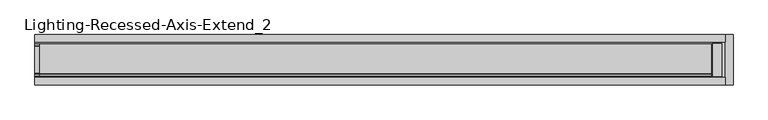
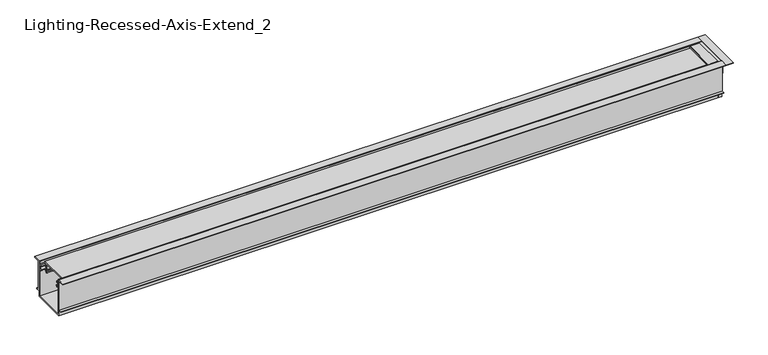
"""IFC4 building model written with IfcOpenShell, lengths in millimetres: light fixture geometry, Lighting-Recessed-Axis-Extend_2 : EX2R-900-80-35-SO-4."""

from ifc_helpers import new_model, si_unit, point, frame, frame_2d, origin, place, context, project, spatial, polyline, circle_curve, trimmed, segment, composite_curve, outline, extrude, faceted_brep, source, transform, mapped, element, save


def lighting_recessed_axis_extend_2_ac76121e(model_context):
    return source(origin(), model_context, "Body", "SolidModel", [
        extrude(outline(polyline([(34.29, -57.023), (38.954552, -57.023), (38.954552, -58.674), (32.004, -58.674), (32.004, 1.651), (45.593, 1.651), (45.593, 0.0), (34.29, 0.0), (34.29, -57.023)])), frame((-618.7567, 0.0, 0.0), z_axis=(1.0, 0.0, 0.0), x_axis=(0.0, 1.0, 0.0)), (0.0, 0.0, 1.0), 1249.6927),
        extrude(outline(polyline([(-34.29, -57.023), (-34.29, 0.0), (-45.593, 0.0), (-45.593, 1.651), (-32.004, 1.651), (-32.004, -58.674), (-38.954552, -58.674), (-38.954552, -57.023), (-34.29, -57.023)])), frame((-618.7567, 0.0, 0.0), z_axis=(1.0, 0.0, 0.0), x_axis=(0.0, 1.0, 0.0)), (0.0, 0.0, 1.0), 1249.6927),
        faceted_brep([(630.936, -32.004, 0.0), (630.936, -32.004, -23.749), (633.222, -32.004, -23.749), (633.222, -32.004, 0.0), (633.222, 32.004, 0.0), (633.222, 32.004, -23.749), (630.936, 32.004, -23.749), (630.936, 32.004, 0.0), (630.936, -45.593, 0.0), (630.936, -45.593, 1.651), (630.936, 45.593, 1.651), (630.936, 45.593, 0.0), (644.779, -45.593, 0.0), (644.779, -45.593, 1.651), (644.779, 45.593, 1.651), (644.779, 45.593, 0.0)], [[[0, 1, 2, 3]], [[4, 5, 6, 7]], [[1, 0, 8, 9, 10, 11, 7, 6]], [[2, 1, 6, 5]], [[3, 2, 5, 4]], [[8, 12, 13, 9]], [[11, 10, 14, 15]], [[12, 8, 0, 3, 4, 7, 11, 15]], [[13, 12, 15, 14]], [[9, 13, 14, 10]]]),
        extrude(outline(polyline([(0.5492861, 606.2726), (-0.92075, 606.2726), (-0.92075, 607.06635), (-0.127, 607.06635), (-0.127, 613.918), (-2.9332019, 613.918), (-2.9332019, 624.586), (1.651, 624.586), (1.651, 607.1971437), (0.5492861, 606.2726)])), frame((0.0, -29.972, 0.0), z_axis=(0.0, 1.0, 0.0), x_axis=(0.0, 0.0, 1.0)), (0.0, 0.0, 1.0), 59.944),
        extrude(outline(polyline([(624.586, -32.004), (624.586, 32.004), (630.936, 32.004), (630.936, -32.004), (624.586, -32.004)])), frame((0.0, 0.0, -69.7865), z_axis=(0.0, 0.0, 1.0), x_axis=(1.0, 0.0, 0.0)), (0.0, 0.0, 1.0), 71.4375),
        extrude(outline(composite_curve([segment(polyline([(-24.1727262, -3.2385009), (-24.5114181, -9.7011263)]), True, "CONTINUOUS"), segment(trimmed(circle_curve(frame_2d((-27.2542, -12.7)), 4.064), [point((-24.5114181, -9.7011263))], [point((-25.3818814, -16.3070097))], False, "CARTESIAN"), True, "CONTINUOUS"), segment(trimmed(circle_curve(frame_2d((-22.149344, -15.5181543)), 3.3274001), [point((-25.3818814, -16.3070097))], [point((-24.5665956, -17.8047425))], True, "CARTESIAN"), True, "CONTINUOUS"), segment(trimmed(circle_curve(frame_2d((-17.1303177, -10.7704292)), 10.2362001), [point((-24.5665956, -17.8047425))], [point((-23.2119066, -19.0041445))], True, "CARTESIAN"), True, "CONTINUOUS"), segment(trimmed(circle_curve(frame_2d((-23.7023573, -19.6681538)), 0.8255), [point((-23.2119066, -19.0041445))], [point((-24.192808, -20.3321631))], False, "CARTESIAN"), True, "CONTINUOUS"), segment(trimmed(circle_curve(frame_2d((-17.1303169, -10.7704283)), 11.8872013), [point((-24.192808, -20.3321631))], [point((-25.7659952, -18.9393092))], False, "CARTESIAN"), True, "CONTINUOUS"), segment(trimmed(circle_curve(frame_2d((-22.149344, -15.5181543)), 4.9784001), [point((-25.7659952, -18.9393092))], [point((-27.1108807, -15.10874))], False, "CARTESIAN"), True, "CONTINUOUS"), segment(trimmed(circle_curve(frame_2d((-27.2542, -12.7)), 2.413), [point((-27.1108807, -15.10874))], [point((-25.4753941, -11.0695342))], True, "CARTESIAN"), True, "CONTINUOUS"), segment(trimmed(circle_curve(frame_2d((-23.6029669, -9.3532544)), 2.54), [point((-25.4753941, -11.0695342))], [point((-26.1394859, -9.2203211))], False, "CARTESIAN"), True, "CONTINUOUS"), segment(polyline([(-26.1394859, -9.2203211), (-25.825992, -3.2385009), (-28.829, -3.2385009), (-28.829, -1.3335), (28.829, -1.3335), (28.829, -3.2385009), (25.825992, -3.2385009), (26.1394859, -9.2203211)]), True, "CONTINUOUS"), segment(trimmed(circle_curve(frame_2d((23.6029669, -9.3532544)), 2.54), [point((26.1394859, -9.2203211))], [point((25.4753941, -11.0695342))], False, "CARTESIAN"), True, "CONTINUOUS"), segment(trimmed(circle_curve(frame_2d((27.2542, -12.7)), 2.413), [point((25.4753941, -11.0695342))], [point((27.1108807, -15.10874))], True, "CARTESIAN"), True, "CONTINUOUS"), segment(trimmed(circle_curve(frame_2d((22.149344, -15.5181543)), 4.9784001), [point((27.1108807, -15.10874))], [point((25.7659952, -18.9393092))], False, "CARTESIAN"), True, "CONTINUOUS"), segment(trimmed(circle_curve(frame_2d((17.1303169, -10.7704283)), 11.8872013), [point((25.7659952, -18.9393092))], [point((24.192808, -20.3321631))], False, "CARTESIAN"), True, "CONTINUOUS"), segment(trimmed(circle_curve(frame_2d((23.7023573, -19.6681538)), 0.8255), [point((24.192808, -20.3321631))], [point((23.2119066, -19.0041445))], False, "CARTESIAN"), True, "CONTINUOUS"), segment(trimmed(circle_curve(frame_2d((17.1303177, -10.7704292)), 10.2362001), [point((23.2119066, -19.0041445))], [point((24.5665956, -17.8047425))], True, "CARTESIAN"), True, "CONTINUOUS"), segment(trimmed(circle_curve(frame_2d((22.149344, -15.5181543)), 3.3274001), [point((24.5665956, -17.8047425))], [point((25.3818814, -16.3070097))], True, "CARTESIAN"), True, "CONTINUOUS"), segment(trimmed(circle_curve(frame_2d((27.2542, -12.7)), 4.064), [point((25.3818814, -16.3070097))], [point((24.5114181, -9.7011263))], False, "CARTESIAN"), True, "CONTINUOUS"), segment(polyline([(24.5114181, -9.7011263), (24.1727262, -3.2385009), (-24.1727262, -3.2385009)]), True, "CONTINUOUS")], self_intersect=False)), frame((-609.6, 0.0, 0.0), z_axis=(1.0, 0.0, 0.0), x_axis=(0.0, 1.0, 0.0)), (0.0, 0.0, 1.0), 1219.2),
        extrude(outline(composite_curve([segment(polyline([(-29.972, -13.2588), (-29.972, -67.7545), (29.972, -67.7545), (29.972, -13.2588), (28.1325797, -13.2588)]), True, "CONTINUOUS"), segment(trimmed(circle_curve(frame_2d((26.6262297, -13.2588)), 1.5063501), [point((28.1325797, -13.2588))], [point((25.8730546, -14.5633374))], False, "CARTESIAN"), True, "CONTINUOUS"), segment(trimmed(circle_curve(frame_2d((27.0642121, -12.5001921)), 2.382315), [point((25.8730546, -14.5633374))], [point((24.6896516, -12.3081318))], False, "CARTESIAN"), True, "CONTINUOUS"), segment(polyline([(24.6896516, -12.3081318), (28.067, -9.4742), (28.067, -11.2268), (29.972, -11.2268), (29.972, -4.699), (28.067, -4.699), (28.067, -6.223), (26.416, -6.1364748), (26.416, -3.429), (29.972, -3.429), (29.972, 1.651), (32.004, 1.651), (32.004, -69.7865), (-32.004, -69.7865), (-32.004, 1.651), (-29.972, 1.651), (-29.972, -3.429), (-26.416, -3.429), (-26.416, -6.1364748), (-28.067, -6.223), (-28.067, -4.699), (-29.972, -4.699), (-29.972, -11.2268), (-28.067, -11.2268), (-28.067, -9.4742), (-24.6896516, -12.3081318)]), True, "CONTINUOUS"), segment(trimmed(circle_curve(frame_2d((-27.0642121, -12.5001921)), 2.382315), [point((-24.6896516, -12.3081318))], [point((-25.8730546, -14.5633374))], False, "CARTESIAN"), True, "CONTINUOUS"), segment(trimmed(circle_curve(frame_2d((-26.6262297, -13.2588)), 1.5063501), [point((-25.8730546, -14.5633374))], [point((-28.1325797, -13.2588))], False, "CARTESIAN"), True, "CONTINUOUS"), segment(polyline([(-28.1325797, -13.2588), (-29.972, -13.2588)]), True, "CONTINUOUS")], self_intersect=False)), frame((-618.7567, 0.0, 0.0), z_axis=(1.0, 0.0, 0.0), x_axis=(0.0, 1.0, 0.0)), (0.0, 0.0, 1.0), 1243.3427),
    ])


if __name__ == "__main__":
    model = new_model("IFC4")
    model_context = context("Model", 3, world=origin())
    ifc_project = project(units=[si_unit("LENGTHUNIT", "METRE", prefix="MILLI")], contexts=[model_context])
    site = spatial("IfcSite", under=ifc_project)
    building = spatial("IfcBuilding", under=site)
    placement = place(None, origin())
    lighting_recessed_axis_extend_2_shape = lighting_recessed_axis_extend_2_ac76121e(model_context)
    element("IfcLightFixture", 1, ObjectType="Lighting-Recessed-Axis-Extend_2 : EX2R-900-80-35-SO-4", at=placement, inside=building, context=model_context, shape_type="MappedRepresentation", body=[
        mapped(lighting_recessed_axis_extend_2_shape, transform((0.0, 0.0, 0.0), x_axis=(1.0, 0.0, 0.0), y_axis=(0.0, 1.0, 0.0), z_axis=(0.0, 0.0, 1.0))),
    ])
    save(model, "model.ifc")
